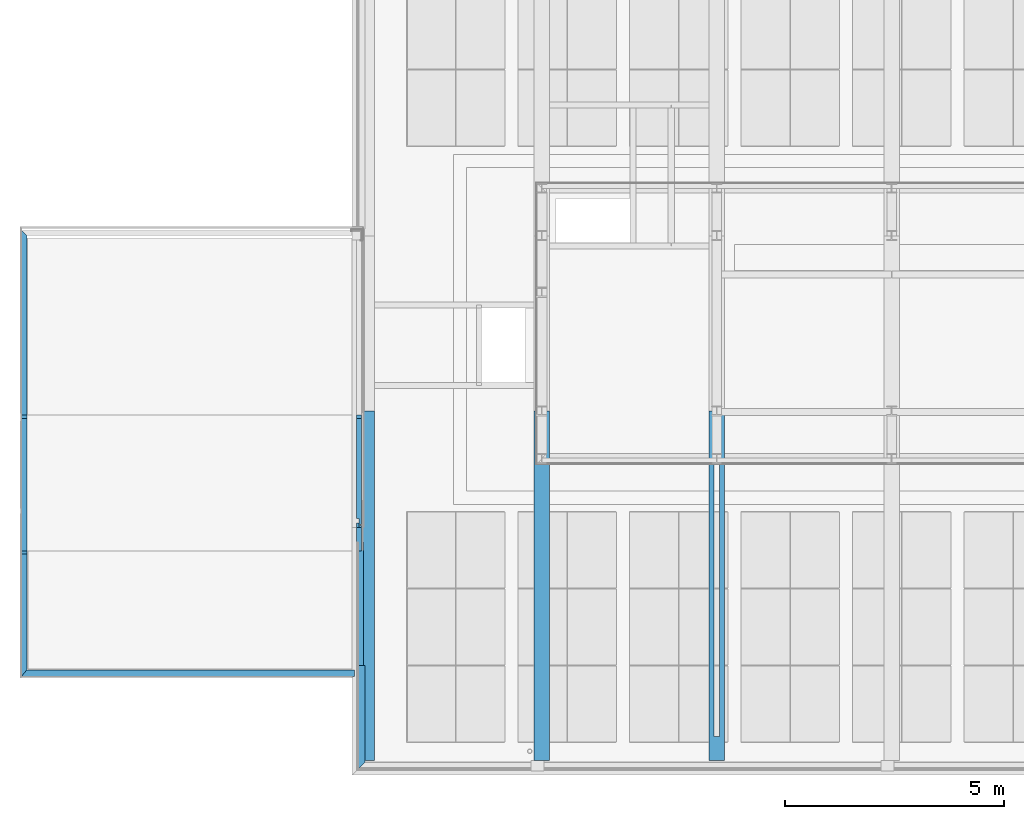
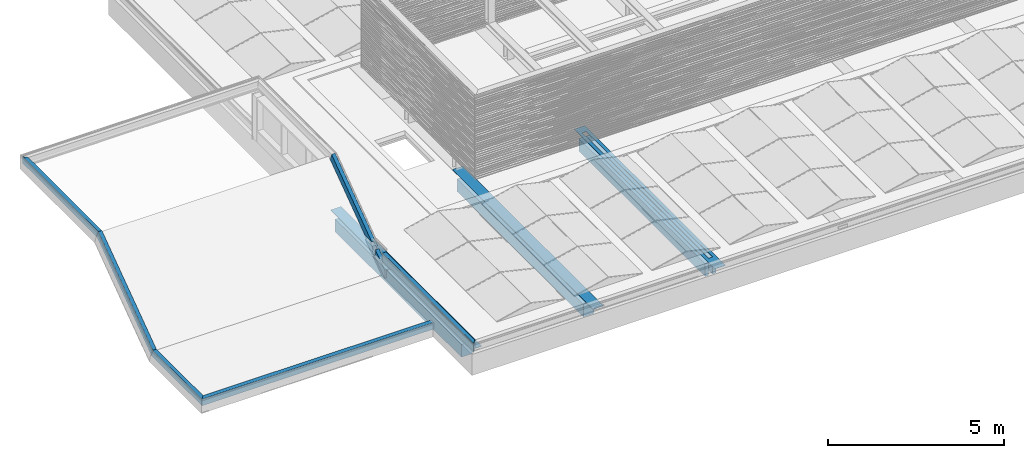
# One storey, part 5 of 63: 10 beams.
"""IFC2X3 building model written with IfcOpenShell, lengths in millimetres."""

from ifc_helpers import new_model, entity, si_unit, converted_unit, derived_unit, money_unit, direction, frame, origin_with_axes, place, context, subcontext, project, spatial, faceted_brep, material, type_object, element, save


model = new_model("IFC2X3")

# Units and contexts
model_context = context("Model", 3, precision=0.01, world=origin_with_axes(), true_north=direction((0.0, 1.0)))
body_context = subcontext(model_context, "Body", "Model", "MODEL_VIEW")
ifc_project = project(units=[si_unit("LENGTHUNIT", "METRE", prefix="MILLI"), si_unit("AREAUNIT", "SQUARE_METRE"), si_unit("VOLUMEUNIT", "CUBIC_METRE"), converted_unit("PLANEANGLEUNIT", "DEGREE", entity("IfcPlaneAngleMeasure", 0.0174532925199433), si_unit("PLANEANGLEUNIT", "RADIAN"), dimensions=[0, 0, 0, 0, 0, 0, 0]), money_unit("EUR"), converted_unit("TIMEUNIT", "Year", entity("IfcTimeMeasure", 31557600.0), si_unit("TIMEUNIT", "SECOND"), dimensions=[0, 0, 1, 0, 0, 0, 0]), si_unit("MASSUNIT", "GRAM", prefix="KILO"), si_unit("THERMODYNAMICTEMPERATUREUNIT", "DEGREE_CELSIUS"), si_unit("LUMINOUSINTENSITYUNIT", "LUMEN"), si_unit("ENERGYUNIT", "JOULE", prefix="MEGA"), derived_unit("THERMALCONDUCTANCEUNIT", [(si_unit("POWERUNIT", "WATT"), 1), (si_unit("LENGTHUNIT", "METRE"), -1), (si_unit("THERMODYNAMICTEMPERATUREUNIT", "KELVIN"), -1)]), derived_unit("SPECIFICHEATCAPACITYUNIT", [(si_unit("ENERGYUNIT", "JOULE"), 1), (si_unit("MASSUNIT", "GRAM", prefix="KILO"), -1), (si_unit("THERMODYNAMICTEMPERATUREUNIT", "KELVIN"), -1)]), derived_unit("MASSDENSITYUNIT", [(si_unit("MASSUNIT", "GRAM", prefix="KILO"), 1), (si_unit("VOLUMEUNIT", "CUBIC_METRE"), -1)])], contexts=[model_context])

# Site, building, storey
site_placement = place(None, origin_with_axes())
site = spatial("IfcSite", under=ifc_project, at=site_placement, Name="<site naam>", CompositionType="ELEMENT")
building_placement = place(site_placement, origin_with_axes())
building = spatial("IfcBuilding", under=site, at=building_placement, Name="<Naam gebouw>", CompositionType="ELEMENT")
storey_placement = place(building_placement, frame((0.0, 0.0, 12770.0), z_axis=(0.0, 0.0, 1.0), x_axis=(1.0, 0.0, 0.0)))
storey = spatial("IfcBuildingStorey", under=building, at=storey_placement, Name="04 4e verdieping", CompositionType="ELEMENT", Elevation=12770.0)

# Beams
ifc_material_1 = material(Name="beton_gewapend C")
beam_type_1 = type_object("IfcBeamType", Name="beton_gewapend C 350 x 600", PredefinedType="BEAM")
beam_1_placement = place(storey_placement, frame((20000.00000000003, 7994.453850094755, -59.99999999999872), z_axis=(0.0, 0.0, 1.0), x_axis=(-1.0, 0.0, 0.0)))
element("IfcBeam", 1, at=beam_1_placement, inside=storey, type_object=beam_type_1, material=ifc_material_1, Name="28_Balk_beton_gewapend", ObjectType="BEAM", context=body_context, shape_type="Brep", body=[
    faceted_brep([(174.9999999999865, 269.4538500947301, -159.9999853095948), (175.0000000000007, 7444.453850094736, -159.9999853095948), (65.00000000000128, 7444.453850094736, -159.9999853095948), (65.00000000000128, 269.4538500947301, -159.9999853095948), (174.9999999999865, 269.4538500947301, -599.9999999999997), (175.0000000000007, 7444.453850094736, -599.9999999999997), (65.00000000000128, 7444.453850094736, -599.9999999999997), (65.00000000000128, 269.4538500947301, -599.9999999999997)], [[[0, 1, 2, 3]], [[4, 5, 1, 0]], [[5, 6, 2, 1]], [[3, 2, 6, 7]], [[4, 0, 3, 7]], [[7, 6, 5, 4]]]),
    faceted_brep([(-65.00000000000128, 269.4538500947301, -159.9999853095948), (-65.00000000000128, 7444.453850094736, -159.9999853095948), (-175.0000000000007, 7444.453850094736, -159.9999853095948), (-175.0000000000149, 269.4538500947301, -159.9999853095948), (-65.00000000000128, 269.4538500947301, -599.9999999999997), (-65.00000000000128, 7444.453850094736, -599.9999999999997), (-175.0000000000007, 7444.453850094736, -599.9999999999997), (-175.0000000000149, 269.4538500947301, -599.9999999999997)], [[[0, 1, 2, 3]], [[4, 5, 1, 0]], [[5, 6, 2, 1]], [[3, 2, 6, 7]], [[4, 0, 3, 7]], [[7, 6, 5, 4]]]),
    faceted_brep([(65.00000000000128, 269.4538500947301, 0.0), (65.00000000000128, 269.4538500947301, -9.99998530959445), (-65.00000000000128, 269.4538500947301, -9.99998530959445), (-65.00000000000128, 269.4538500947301, 0.0), (65.00000000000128, 7444.453850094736, 0.0), (65.00000000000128, 7444.453850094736, -9.99998530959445), (175.0000000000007, 7994.453850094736, -9.99998530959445), (175.0000000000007, 0.0, -9.99998530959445), (-175.0000000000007, 0.0, -9.99998530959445), (-175.0000000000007, 7994.453850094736, -9.99998530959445), (-65.00000000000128, 7444.453850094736, -9.99998530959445), (-65.00000000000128, 7444.453850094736, 0.0), (-175.0000000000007, 7994.453850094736, 0.0), (-175.0000000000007, 0.0, 0.0), (175.0000000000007, 0.0, 0.0), (175.0000000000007, 7994.453850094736, 0.0)], [[[0, 1, 2, 3]], [[4, 5, 1, 0]], [[6, 7, 8, 9], [5, 10, 2, 1]], [[3, 2, 10, 11]], [[12, 13, 14, 15], [3, 11, 4, 0]], [[11, 10, 5, 4]], [[14, 7, 6, 15]], [[13, 8, 7, 14]], [[12, 9, 8, 13]], [[15, 6, 9, 12]]]),
])
beam_2_placement = place(storey_placement, frame((16000.00000000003, 7994.453850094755, -59.99999999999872), z_axis=(0.0, 0.0, 1.0), x_axis=(-1.0, 0.0, 0.0)))
element("IfcBeam", 2, at=beam_2_placement, inside=storey, type_object=beam_type_1, material=ifc_material_1, Name="28_Balk_beton_gewapend", ObjectType="BEAM", context=body_context, shape_type="Brep", body=[
    faceted_brep([(174.9999999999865, 269.4538500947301, -159.9999853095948), (175.0000000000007, 7444.453850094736, -159.9999853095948), (-175.0000000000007, 7444.453850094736, -159.9999853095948), (-175.0000000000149, 269.4538500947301, -159.9999853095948), (174.9999999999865, 269.4538500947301, -599.9999999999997), (175.0000000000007, 7444.453850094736, -599.9999999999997), (-175.0000000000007, 7444.453850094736, -599.9999999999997), (-175.0000000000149, 269.4538500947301, -599.9999999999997)], [[[0, 1, 2, 3]], [[4, 5, 1, 0]], [[5, 6, 2, 1]], [[3, 2, 6, 7]], [[4, 0, 3, 7]], [[7, 6, 5, 4]]]),
    faceted_brep([(-175.0000000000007, 7994.453850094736, 0.0), (-175.0000000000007, 7994.453850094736, -9.99998530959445), (-175.0000000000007, 0.0, -9.99998530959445), (-175.0000000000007, 0.0, 0.0), (174.9999999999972, 7994.453850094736, 0.0), (174.9999999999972, 7994.453850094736, -9.99998530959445), (175.0000000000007, 0.0, -9.99998530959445), (175.0000000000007, 0.0, 0.0)], [[[0, 1, 2, 3]], [[4, 5, 1, 0]], [[5, 6, 2, 1]], [[3, 2, 6, 7]], [[3, 7, 4, 0]], [[7, 6, 5, 4]]]),
])
beam_3_placement = place(storey_placement, frame((12000.00000000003, 7994.453850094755, -59.99999999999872), z_axis=(0.0, 0.0, 1.0), x_axis=(-1.0, 0.0, 0.0)))
element("IfcBeam", 3, at=beam_3_placement, inside=storey, type_object=beam_type_1, material=ifc_material_1, Name="28_Balk_beton_gewapend", ObjectType="BEAM", context=body_context, shape_type="Brep", body=[
    faceted_brep([(174.9999999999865, 269.4538500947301, -159.9999853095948), (175.0000000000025, 7444.453850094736, -159.9999853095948), (-174.9999999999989, 7444.453850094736, -159.9999853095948), (-175.0000000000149, 269.4538500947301, -159.9999853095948), (174.9999999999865, 269.4538500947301, -599.9999999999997), (175.0000000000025, 7444.453850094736, -599.9999999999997), (-174.9999999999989, 7444.453850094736, -599.9999999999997), (-175.0000000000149, 269.4538500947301, -599.9999999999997)], [[[0, 1, 2, 3]], [[4, 5, 1, 0]], [[5, 6, 2, 1]], [[3, 2, 6, 7]], [[4, 0, 3, 7]], [[7, 6, 5, 4]]]),
    faceted_brep([(-175.0000000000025, 7994.453850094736, 0.0), (-175.0000000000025, 7994.453850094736, -9.99998530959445), (-175.0000000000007, 0.0, -9.99998530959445), (-175.0000000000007, 0.0, 0.0), (174.9999999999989, 7994.453850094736, 0.0), (174.9999999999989, 7994.453850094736, -9.99998530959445), (175.0000000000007, 0.0, -9.99998530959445), (175.0000000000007, 0.0, 0.0)], [[[0, 1, 2, 3]], [[4, 5, 1, 0]], [[5, 6, 2, 1]], [[3, 2, 6, 7]], [[3, 7, 4, 0]], [[7, 6, 5, 4]]]),
])
ifc_material_2 = material(Name="ALG - BUITENAFWERKING")
beam_type_2 = type_object("IfcBeamType", Name="ALG - BUITENAFWERKING 170 x 18", PredefinedType="BEAM")
beam_4_placement = place(storey_placement, frame((11956.80000242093, 2181.722103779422, 241.2498222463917), z_axis=(0.0, 0.0, 1.0), x_axis=(-1.0, 0.0, 0.0)))
element("IfcBeam", 4, at=beam_4_placement, inside=storey, type_object=beam_type_2, material=ifc_material_2, Name="47_Balk_ALG", ObjectType="BEAM", context=body_context, shape_type="Brep", body=[
    faceted_brep([(0.0, 2214.970887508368, 18.00262955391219), (0.0, 0.0, 18.00262955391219), (170.0000000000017, 0.0, 18.00262955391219), (170.0000000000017, 2384.970887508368, 18.00262955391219), (0.0, 2214.970887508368, 0.0), (0.0, 0.0, 0.0), (170.0000000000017, 0.0, 0.0), (170.0000000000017, 2384.970887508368, 0.0)], [[[0, 1, 2, 3]], [[4, 5, 1, 0]], [[1, 5, 6, 2]], [[3, 2, 6, 7]], [[7, 4, 0, 3]], [[7, 6, 5, 4]]]),
])
beam_type_3 = type_object("IfcBeamType", Name="ALG - BUITENAFWERKING 120 x 329", PredefinedType="BEAM")
beam_5_placement = place(storey_placement, frame((11930.00000242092, 5004.102305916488, -70.00000000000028), z_axis=(0.0, 0.0, 1.0), x_axis=(-1.0, 0.0, 0.0)))
element("IfcBeam", 5, at=beam_5_placement, inside=storey, type_object=beam_type_3, material=ifc_material_2, Name="47_Balk_ALG", ObjectType="BEAM", context=body_context, shape_type="Brep", body=[
    faceted_brep([(13.78503473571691, 0.0, 29.89877657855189), (13.28503472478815, 0.0, 29.89877657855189), (12.93148432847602, 0.0, 29.71810534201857), (12.78503473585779, 0.0, 29.28192423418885), (12.78463375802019, 0.0, 0.0), (46.58976395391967, 0.0, 0.0), (46.5897639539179, 0.0, 20.64600842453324), (29.78474305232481, 0.0, 20.64631080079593), (23.85925348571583, 0.0, 21.75426019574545), (23.55065973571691, 0.0, 21.56149057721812), (23.28112848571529, 0.0, 21.67233310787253), (23.12681699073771, 0.0, 22.05281354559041), (22.47644098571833, 0.0, 22.35184601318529), (22.15612848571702, 0.0, 22.18799183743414), (21.89831598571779, 0.0, 22.32293057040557), (21.76395800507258, 0.0, 22.71910384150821), (16.55847223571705, 0.0, 26.81446268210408), (14.78503473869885, 0.0, 26.81446268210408), (14.43148134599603, 0.0, 26.99513760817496), (14.28503473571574, 0.0, 27.43132546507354), (14.28503473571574, 0.0, 29.28191379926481), (14.13858812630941, 0.0, 29.71810165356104), (13.28503472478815, 41.37951613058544, 0.0), (13.78503473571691, 41.37951613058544, 0.0), (12.93148432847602, 41.12946949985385, 0.0), (12.78503473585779, 40.52580054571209, 0.0), (23.85925348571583, 30.10761187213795, 0.0), (29.78474305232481, 28.57422438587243, 0.0), (46.5897639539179, 28.57380590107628, 0.0), (14.13858812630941, 41.12946439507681, 0.0), (14.28503473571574, 40.52578610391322, 0.0), (14.28503473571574, 37.96459602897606, 0.0), (14.43148134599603, 37.3609177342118, 0.0), (14.78503473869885, 37.11086599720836, 0.0), (16.55847223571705, 37.11086599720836, 0.0), (21.76395800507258, 31.44294287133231, 0.0), (21.89831598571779, 30.89464424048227, 0.0), (22.15612848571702, 30.70789079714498, 0.0), (22.47644098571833, 30.93466283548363, 0.0), (23.12681699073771, 30.52080580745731, 0.0), (23.28112848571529, 29.99422585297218, 0.0), (23.55065973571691, 29.84082123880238, 0.0)], [[[0, 1, 2, 3, 4, 5, 6, 7, 8, 9, 10, 11, 12, 13, 14, 15, 16, 17, 18, 19, 20, 21]], [[22, 1, 0, 23]], [[24, 2, 1, 22]], [[25, 3, 2, 24]], [[25, 4, 3]], [[26, 27, 28, 5, 4, 25, 24, 22, 23, 29, 30, 31, 32, 33, 34, 35, 36, 37, 38, 39, 40, 41]], [[5, 28, 6]], [[27, 7, 6, 28]], [[26, 8, 7, 27]], [[41, 9, 8, 26]], [[40, 10, 9, 41]], [[39, 11, 10, 40]], [[38, 12, 11, 39]], [[37, 13, 12, 38]], [[36, 14, 13, 37]], [[35, 15, 14, 36]], [[34, 16, 15, 35]], [[33, 17, 16, 34]], [[32, 18, 17, 33]], [[31, 19, 18, 32]], [[30, 20, 19, 31]], [[29, 21, 20, 30]], [[23, 0, 21, 29]]]),
    faceted_brep([(56.23425348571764, 0.0, 21.50606931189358), (56.48140566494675, 0.0, 21.38051766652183), (56.50897043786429, 0.0, 21.29857829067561), (119.9999999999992, 0.0, 21.29857829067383), (119.9999999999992, 0.0, 329.3), (0.0, 0.0, 329.3), (0.0, 0.0, 0.0), (11.58581598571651, 0.0, 0.0), (11.58581598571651, 0.0, 44.08662044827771), (11.87870921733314, 0.0, 44.95899619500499), (12.58581602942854, 0.0, 45.32034606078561), (23.08581596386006, 0.0, 45.32034606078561), (23.79349721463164, 0.0, 44.95828575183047), (24.08581333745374, 0.0, 44.08461279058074), (24.0819081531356, 0.0, 41.12399722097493), (23.90634349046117, 0.0, 40.60318071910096), (23.48376679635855, 0.0, 40.38785406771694), (23.06147468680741, 0.0, 40.60402883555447), (22.88659723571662, 0.0, 41.12519712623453), (22.88659723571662, 0.0, 43.22397645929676), (22.7401506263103, 0.0, 43.66016431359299), (22.38659723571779, 0.0, 43.84083923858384), (13.28503472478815, 0.0, 43.84083923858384), (12.93148134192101, 0.0, 43.66016431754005), (12.78503473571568, 0.0, 43.22397647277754), (12.78503473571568, 0.0, 32.61200895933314), (13.07742970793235, 0.0, 31.74024925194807), (13.78362440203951, 0.0, 31.37828585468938), (14.27081910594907, 0.0, 31.37743815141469), (15.05117437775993, 0.0, 30.91252656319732), (21.60248527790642, 0.0, 24.43736603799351), (29.78503213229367, 0.0, 22.12534171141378), (30.58581598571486, 0.0, 22.12534171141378), (30.88659723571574, 0.0, 22.49642322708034), (33.28503473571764, 0.0, 22.49642322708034), (33.58581598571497, 0.0, 22.12534171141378), (36.58581598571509, 0.0, 22.12534171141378), (36.88659723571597, 0.0, 22.49642322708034), (39.28503473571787, 0.0, 22.49642322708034), (39.5858159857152, 0.0, 22.12534171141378), (42.58581598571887, 0.0, 22.12534171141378), (42.8865972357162, 0.0, 22.49642322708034), (45.2850347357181, 0.0, 22.49642322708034), (45.58581598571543, 0.0, 22.12534171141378), (48.58581598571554, 0.0, 22.12534171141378), (48.88659723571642, 0.0, 22.49642322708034), (51.28503473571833, 0.0, 22.49642322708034), (51.58581598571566, 0.0, 22.12534171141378), (56.48140566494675, 29.59035709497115, 0.0), (56.23425348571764, 29.76411893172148, 0.0), (56.50897043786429, 29.47695406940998, 0.0), (119.9999999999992, 29.47695406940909, 0.0), (119.9999999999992, 5159.102305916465, 329.2524518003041), (119.9999999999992, 5159.102305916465, 329.3), (119.9999999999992, 5159.102305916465, 0.0), (119.9999999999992, 5159.102305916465, 311.249822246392), (119.9999999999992, 2822.380202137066, 311.249822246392), (119.9999999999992, 2822.380202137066, 329.2524518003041), (0.0, 5039.102305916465, 329.3), (0.0, 5039.102305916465, 329.2524518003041), (0.0, 2822.380202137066, 329.2524518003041), (0.0, 2822.380202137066, 311.249822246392), (0.0, 5039.102305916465, 311.249822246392), (0.0, 5039.102305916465, 0.0), (11.87870921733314, 62.22266330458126, 0.0), (11.58581598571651, 61.01530666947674, 0.0), (51.58581598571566, 30.62118384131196, 0.0), (51.28503473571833, 31.13475581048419, 0.0), (48.88659723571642, 31.13475581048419, 0.0), (48.58581598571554, 30.62118384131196, 0.0), (45.58581598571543, 30.62118384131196, 0.0), (45.2850347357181, 31.13475581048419, 0.0), (42.8865972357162, 31.13475581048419, 0.0), (42.58581598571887, 30.62118384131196, 0.0), (39.5858159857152, 30.62118384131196, 0.0), (39.28503473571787, 31.13475581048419, 0.0), (36.88659723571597, 31.13475581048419, 0.0), (36.58581598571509, 30.62118384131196, 0.0), (33.58581598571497, 30.62118384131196, 0.0), (33.28503473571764, 31.13475581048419, 0.0), (30.88659723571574, 31.13475581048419, 0.0), (30.58581598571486, 30.62118384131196, 0.0), (29.78503213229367, 30.62118384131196, 0.0), (21.60248527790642, 33.82099530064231, 0.0), (15.05117437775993, 42.78253286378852, 0.0), (14.27081910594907, 43.42596442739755, 0.0), (13.78362440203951, 43.4271376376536, 0.0), (13.07742970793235, 43.92809025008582, 0.0), (12.78503473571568, 45.13459429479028, 0.0), (12.78503473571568, 59.82141867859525, 0.0), (12.93148134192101, 60.42509695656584, 0.0), (13.28503472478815, 60.67514868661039, 0.0), (22.38659723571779, 60.67514868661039, 0.0), (22.7401506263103, 60.42509695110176, 0.0), (22.88659723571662, 59.82141865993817, 0.0), (22.88659723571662, 56.91673548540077, 0.0), (23.06147468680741, 56.19544538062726, 0.0), (23.48376679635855, 55.89626232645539, 0.0), (23.90634349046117, 56.19427159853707, 0.0), (24.0819081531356, 56.91507483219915, 0.0), (24.08581333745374, 61.01252809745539, 0.0), (23.79349721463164, 62.22168006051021, 0.0), (23.08581596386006, 62.72276679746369, 0.0), (12.58581602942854, 62.72276679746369, 0.0)], [[[0, 1, 2, 3, 4, 5, 6, 7, 8, 9, 10, 11, 12, 13, 14, 15, 16, 17, 18, 19, 20, 21, 22, 23, 24, 25, 26, 27, 28, 29, 30, 31, 32, 33, 34, 35, 36, 37, 38, 39, 40, 41, 42, 43, 44, 45, 46, 47]], [[48, 1, 0, 49]], [[50, 2, 1, 48]], [[3, 2, 50, 51]], [[52, 53, 4, 3, 51, 54, 55, 56, 57]], [[5, 4, 53, 58]], [[5, 58, 59, 60, 61, 62, 63, 6]], [[64, 65, 7, 6, 63, 54, 51, 50, 48, 49, 66, 67, 68, 69, 70, 71, 72, 73, 74, 75, 76, 77, 78, 79, 80, 81, 82, 83, 84, 85, 86, 87, 88, 89, 90, 91, 92, 93, 94, 95, 96, 97, 98, 99, 100, 101, 102, 103]], [[65, 8, 7]], [[64, 9, 8, 65]], [[103, 10, 9, 64]], [[102, 11, 10, 103]], [[101, 12, 11, 102]], [[100, 13, 12, 101]], [[99, 14, 13, 100]], [[98, 15, 14, 99]], [[97, 16, 15, 98]], [[96, 17, 16, 97]], [[95, 18, 17, 96]], [[94, 19, 18, 95]], [[93, 20, 19, 94]], [[92, 21, 20, 93]], [[91, 22, 21, 92]], [[90, 23, 22, 91]], [[89, 24, 23, 90]], [[88, 25, 24, 89]], [[87, 26, 25, 88]], [[86, 27, 26, 87]], [[85, 28, 27, 86]], [[84, 29, 28, 85]], [[83, 30, 29, 84]], [[82, 31, 30, 83]], [[81, 32, 31, 82]], [[80, 33, 32, 81]], [[79, 34, 33, 80]], [[78, 35, 34, 79]], [[77, 36, 35, 78]], [[76, 37, 36, 77]], [[75, 38, 37, 76]], [[74, 39, 38, 75]], [[73, 40, 39, 74]], [[72, 41, 40, 73]], [[71, 42, 41, 72]], [[70, 43, 42, 71]], [[69, 44, 43, 70]], [[68, 45, 44, 69]], [[67, 46, 45, 68]], [[66, 47, 46, 67]], [[49, 0, 47, 66]], [[52, 59, 58, 53]], [[62, 55, 54, 63]], [[62, 61, 56, 55]], [[61, 60, 57, 56]], [[60, 59, 52, 57]]]),
])
beam_type_4 = type_object("IfcBeamType", Name="ALG - BUITENAFWERKING 120 x 230", PredefinedType="BEAM")
beam_6_placement = place(storey_placement, frame((11763.41023846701, 4799.87130430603, -480.0254459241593), z_axis=(0.0, 0.0, 1.0), x_axis=(1.0, 0.0, 0.0)))
element("IfcBeam", 6, at=beam_6_placement, inside=storey, type_object=beam_type_4, material=ifc_material_2, Name="47_Balk_ALG", ObjectType="BEAM", context=body_context, shape_type="Brep", body=[
    faceted_brep([(110.0059010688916, 534.518454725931, 669.7506547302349), (110.1080148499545, 534.518454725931, 669.4465134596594), (110.3545389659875, 534.518454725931, 669.3205375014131), (119.9999999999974, 534.518454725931, 669.3207110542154), (119.9999999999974, 534.518454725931, 420.0247880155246), (61.54960819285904, 534.518454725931, 420.0247880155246), (61.54960819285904, 534.518454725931, 669.973280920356), (110.0807935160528, 534.518454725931, 669.973280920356), (110.1080148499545, 15.24625531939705, 294.2462954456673), (110.0059010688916, 15.24625531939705, 294.5504367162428), (110.3545389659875, 15.24625531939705, 294.1203194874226), (119.9999999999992, 15.24625531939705, 294.1204930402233), (119.9999999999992, 15.24625531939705, 294.7730629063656), (119.9999999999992, 0.0, 283.7568784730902), (119.9999999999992, 0.0, 0.0), (119.9999999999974, 581.3088186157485, 420.0247880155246), (61.54960819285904, 581.3088186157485, 420.0247880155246), (61.54960819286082, 996.5058093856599, 720.0254459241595), (61.54960819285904, 603.789997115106, 720.0254459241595), (110.0807935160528, 603.789997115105, 720.0254459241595), (110.0807935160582, 3025.729878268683, 2469.99852837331), (0.0, 3025.729878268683, 2469.998528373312), (0.0, 742.188692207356, 820.025447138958), (60.59592292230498, 742.1886922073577, 820.025447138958), (60.59592292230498, 534.518454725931, 669.973280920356), (0.0, 534.518454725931, 669.973280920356), (0.0, 0.0, 283.7568784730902), (110.0807935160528, 15.24625531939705, 294.7730629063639), (0.0, 0.0, 0.0), (119.9999999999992, 996.5058093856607, 720.0254459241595), (0.0, 636.6692073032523, 460.025446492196), (60.59592292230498, 636.6692073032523, 460.025446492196), (60.59592292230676, 1134.904504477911, 820.025447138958), (0.0, 1134.904504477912, 820.025447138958), (0.0, 3100.128695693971, 2239.998528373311), (119.9999999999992, 3100.128695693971, 2239.998528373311), (110.1080148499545, 604.5190363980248, 720.0254459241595), (110.0059010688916, 604.0981088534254, 720.0254459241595), (119.9999999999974, 604.6931452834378, 720.0254459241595), (110.3545389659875, 604.6933854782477, 720.0254459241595), (110.005901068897, 3025.788249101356, 2469.818078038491), (110.1080148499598, 3025.867992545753, 2469.571555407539), (110.3545389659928, 3025.901022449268, 2469.469445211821), (119.9999999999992, 3025.90097694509, 2469.469585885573), (60.59592292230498, 534.518454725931, 460.025446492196), (0.0, 534.518454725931, 460.025446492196)], [[[0, 1, 2, 3, 4, 5, 6, 7]], [[8, 1, 0, 9]], [[10, 2, 1, 8]], [[10, 11, 3, 2]], [[3, 11, 12, 13, 14, 15, 4]], [[16, 5, 4, 15]], [[6, 5, 16, 17, 18]], [[18, 19, 20, 21, 22, 23, 24, 25, 26, 13, 12, 27, 7, 6]], [[9, 0, 7, 27]], [[9, 27, 12, 11, 10, 8]], [[13, 26, 28, 14]], [[29, 17, 16, 15, 14, 28, 30, 31, 32, 33, 34, 35]], [[36, 37, 19, 18, 17, 29, 38, 39]], [[37, 40, 20, 19]], [[40, 41, 42, 43, 35, 34, 21, 20]], [[22, 21, 34, 33]], [[32, 23, 22, 33]], [[44, 24, 23, 32, 31]], [[24, 44, 45, 25]], [[28, 26, 25, 45, 30]], [[30, 45, 44, 31]], [[35, 43, 38, 29]], [[36, 41, 40, 37]], [[39, 38, 43, 42]], [[39, 42, 41, 36]]]),
])
beam_7_placement = place(storey_placement, frame((4226.445522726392, 12005.13994272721, 1759.973082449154), z_axis=(0.0, 0.0, 1.0), x_axis=(-1.0, 0.0, 0.0)))
element("IfcBeam", 7, at=beam_7_placement, inside=storey, type_object=beam_type_4, material=ifc_material_2, Name="47_Balk_ALG", ObjectType="BEAM", context=body_context, shape_type="Brep", body=[
    faceted_brep([(120.0000000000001, -119.9999999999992, 0.0), (120.0000000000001, -119.9999999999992, 198.1232229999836), (119.9462153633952, -119.9462153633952, 198.1301629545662), (119.9462153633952, -119.9462153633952, 209.0654661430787), (120.0000000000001, -119.9999999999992, 209.0654661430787), (120.0000000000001, -119.9999999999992, 230.0000000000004), (0.0, 0.0, 230.0000000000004), (0.0, 0.0, 0.0), (119.9999999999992, 4105.139942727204, 0.0), (119.9999999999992, 4169.229075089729, 198.1232229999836), (119.9462153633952, 4169.231320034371, 198.1301629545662), (119.9462153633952, 4172.768684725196, 209.0654661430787), (119.9999999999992, 4172.768684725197, 209.0654661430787), (119.9999999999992, 4179.540612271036, 230.0000000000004), (0.0, 4179.540612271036, 230.0000000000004), (0.0, 4105.139942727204, 0.0)], [[[0, 1, 2, 3, 4, 5, 6, 7]], [[8, 9, 1, 0]], [[10, 2, 1, 9]], [[11, 3, 2, 10]], [[12, 4, 3, 11]], [[5, 4, 12, 13]], [[14, 6, 5, 13]], [[15, 7, 6, 14]], [[8, 0, 7, 15]], [[11, 10, 9, 8, 15, 14, 13, 12]]]),
])
beam_8_placement = place(storey_placement, frame((4226.445522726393, 7900.000000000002, 1759.973082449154), z_axis=(0.0, 0.0, 1.0), x_axis=(-1.0, 0.0, 0.0)))
element("IfcBeam", 8, at=beam_8_placement, inside=storey, type_object=beam_type_4, material=ifc_material_2, Name="47_Balk_ALG", ObjectType="BEAM", context=body_context, shape_type="Brep", body=[
    faceted_brep([(119.9999999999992, 3044.998677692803, -2200.231898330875), (119.9462153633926, 3044.998677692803, -2200.231898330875), (119.9462153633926, 0.0, 0.0), (0.0, 0.0, 0.0), (0.0, 3100.000000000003, -2239.974333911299), (119.9999999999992, 3100.000000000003, -2239.974333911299), (119.9999999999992, 3044.998677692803, -1951.267748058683), (119.9462153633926, 3044.998677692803, -1951.259186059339), (119.9462153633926, 74.40066954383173, 230.0000000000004), (119.9462153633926, 70.27190234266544, 198.1301629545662), (119.9462153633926, 73.80917897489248, 209.0654661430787), (119.9462153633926, 3168.817668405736, -2027.233456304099), (119.9462153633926, 3173.902657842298, -2011.51387235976), (119.9462153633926, 3173.902657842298, -2009.614484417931), (0.0, 74.40066954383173, 230.0000000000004), (0.0, 3174.400669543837, -2009.974333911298), (119.9462153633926, 3165.28032039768, -2038.168707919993), (119.9999999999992, 3165.278075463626, -2038.175647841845), (119.9999999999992, 3174.400669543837, -2009.974333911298), (119.9999999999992, 3173.902657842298, -2011.51387235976), (119.9999999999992, 3173.902657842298, -2009.614484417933)], [[[0, 1, 2, 3, 4, 5]], [[6, 7, 1, 0]], [[8, 2, 1, 7, 9, 10, 11, 12, 13]], [[2, 8, 14, 3]], [[15, 4, 3, 14]], [[12, 11, 16, 17, 5, 4, 15, 18, 19]], [[6, 0, 5, 17]], [[7, 6, 17, 16]], [[9, 7, 16, 11, 10]], [[20, 13, 12, 19]], [[13, 20, 18, 15, 14, 8]], [[20, 19, 18]]]),
])
beam_9_placement = place(storey_placement, frame((4226.445525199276, 4800.0, -480.001251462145), z_axis=(0.0, 0.0, 1.0), x_axis=(-1.0, 0.0, 0.0)))
element("IfcBeam", 9, at=beam_9_placement, inside=storey, type_object=beam_type_4, material=ifc_material_2, Name="47_Balk_ALG", ObjectType="BEAM", context=body_context, shape_type="Brep", body=[
    faceted_brep([(119.9999999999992, 2869.994858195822, 209.0667176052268), (119.9462178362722, 2869.929871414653, 209.0667176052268), (119.9462178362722, 2869.929871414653, 198.1314144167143), (119.9999999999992, 2869.994858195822, 198.1244747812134), (119.9999999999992, 2869.994858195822, 0.0), (0.0, 2724.994858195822, 0.0), (0.0, 2724.994858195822, 230.0000000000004), (119.9999999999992, 2869.994858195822, 230.0000000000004), (119.9999999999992, 73.90265784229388, 209.0667176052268), (119.946217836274, 73.90265784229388, 209.0667176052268), (119.946217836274, 70.36538121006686, 198.1314144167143), (119.9999999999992, 70.36313642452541, 198.1244747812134), (119.9999999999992, 74.40066954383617, 230.0000000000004), (120.0000000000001, 0.0, 0.0), (0.0, 0.0, 0.0), (0.0, 74.40066954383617, 230.0000000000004)], [[[0, 1, 2, 3, 4, 5, 6, 7]], [[8, 9, 1, 0]], [[9, 10, 2, 1]], [[10, 11, 3, 2]], [[3, 11, 8, 0, 7, 12, 13, 4]], [[4, 13, 14, 5]], [[5, 14, 15, 6]], [[6, 15, 12, 7]], [[10, 9, 8, 11]], [[15, 14, 13, 12]]]),
])
beam_type_5 = type_object("IfcBeamType", Name="ALG - BUITENAFWERKING 145 x 230", PredefinedType="BEAM")
beam_10_placement = place(storey_placement, frame((4226.445525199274, 2075.005141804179, -480.001251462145), z_axis=(0.0, 0.0, 1.0), x_axis=(0.0, -1.0, 0.0)))
element("IfcBeam", 10, at=beam_10_placement, inside=storey, type_object=beam_type_5, material=ifc_material_2, Name="47_Balk_ALG", ObjectType="BEAM", context=body_context, shape_type="Brep", body=[
    faceted_brep([(0.0, 0.0, 0.0), (144.9999999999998, -120.0000000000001, 0.0), (144.9999999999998, -120.0000000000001, 198.1244747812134), (144.9350132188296, -119.9462178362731, 198.1314144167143), (144.9350132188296, -119.9462178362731, 209.0667176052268), (144.9999999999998, -120.0000000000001, 209.0667176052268), (144.9999999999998, -120.0000000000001, 230.0000000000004), (0.0, 0.0, 230.0000000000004), (144.9999999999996, 7493.508978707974, 0.0), (0.0, 7493.508978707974, 0.0), (144.9999999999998, -119.9462178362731, 209.0667176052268), (144.9999999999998, -119.9462178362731, 198.1314144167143), (144.9999999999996, 7493.508978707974, 230.0000000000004), (0.0, 7493.508978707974, 230.0000000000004)], [[[0, 1, 2, 3, 4, 5, 6, 7]], [[8, 1, 0, 9]], [[5, 10, 11, 2, 1, 8, 12, 6]], [[2, 11, 3]], [[11, 10, 4, 3]], [[4, 10, 5]], [[13, 7, 6, 12]], [[9, 0, 7, 13]], [[8, 9, 13, 12]]]),
])

save(model, "model.ifc")
